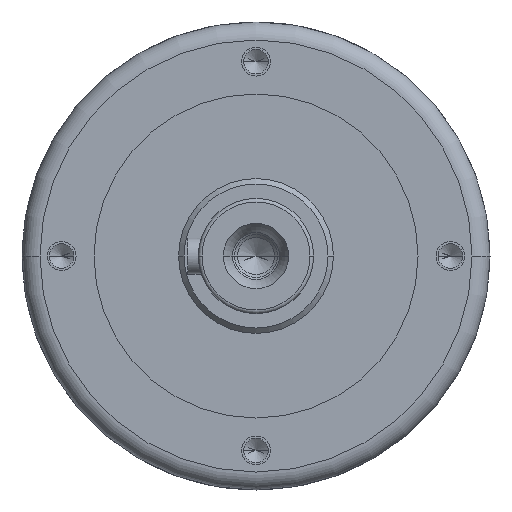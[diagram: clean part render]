
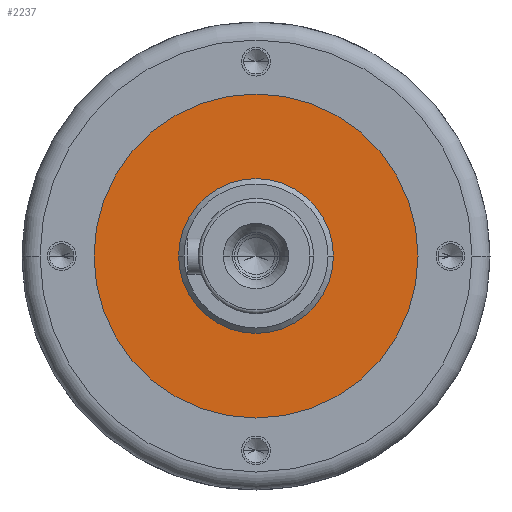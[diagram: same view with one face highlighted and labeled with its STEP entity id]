
A CAD part, left-side view. The second image highlights one B-rep face of the part: STEP entity #2237.
In plain terms, the highlighted planar face has unit normal (-1, 0, 0).
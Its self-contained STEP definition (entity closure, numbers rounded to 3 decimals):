
#1523=CARTESIAN_POINT('',(-17.5,0.,0.));
#1524=DIRECTION('',(-1.,0.,0.));
#1525=DIRECTION('',(0.,1.,0.));
#1526=AXIS2_PLACEMENT_3D('',#1523,#1524,#1525);
#1528=CARTESIAN_POINT('',(-17.5,0.,0.));
#1529=DIRECTION('',(1.,0.,0.));
#1530=DIRECTION('',(0.,1.,0.));
#1531=AXIS2_PLACEMENT_3D('',#1528,#1529,#1530);
#1533=CARTESIAN_POINT('',(-17.5,0.,0.));
#1534=DIRECTION('',(1.,0.,0.));
#1535=DIRECTION('',(0.,1.,0.));
#1536=AXIS2_PLACEMENT_3D('',#1533,#1534,#1535);
#1546=CARTESIAN_POINT('',(-17.5,0.,0.));
#1547=DIRECTION('',(-1.,0.,0.));
#1548=DIRECTION('',(0.,1.,0.));
#1549=AXIS2_PLACEMENT_3D('',#1546,#1547,#1548);
#1874=CARTESIAN_POINT('',(-17.5,45.,0.));
#1876=VERTEX_POINT('',#1874);
#1877=CARTESIAN_POINT('',(-17.5,21.5,0.));
#1879=VERTEX_POINT('',#1877);
#1882=CARTESIAN_POINT('',(-17.5,-45.,0.));
#1884=VERTEX_POINT('',#1882);
#1885=CARTESIAN_POINT('',(-17.5,-21.5,0.));
#1887=VERTEX_POINT('',#1885);
#2222=CARTESIAN_POINT('',(-17.5,0.,0.));
#2223=DIRECTION('',(1.,0.,0.));
#2224=DIRECTION('',(0.,-1.,0.));
#2225=AXIS2_PLACEMENT_3D('',#2222,#2223,#2224);
#2226=PLANE('',#2225);
#2227=ORIENTED_EDGE('',*,*,#2215,.F.);
#2228=ORIENTED_EDGE('',*,*,#2204,.T.);
#2229=EDGE_LOOP('',(#2227,#2228));
#2230=FACE_OUTER_BOUND('',#2229,.F.);
#2232=ORIENTED_EDGE('',*,*,#2231,.F.);
#2234=ORIENTED_EDGE('',*,*,#2233,.T.);
#2235=EDGE_LOOP('',(#2232,#2234));
#2236=FACE_BOUND('',#2235,.F.);
#2237=ADVANCED_FACE('',(#2230,#2236),#2226,.F.);
#1527=CIRCLE('',#1526,45.);
#1532=CIRCLE('',#1531,45.);
#1537=CIRCLE('',#1536,21.5);
#1550=CIRCLE('',#1549,21.5);
#2204=EDGE_CURVE('',#1876,#1884,#1532,.T.);
#2215=EDGE_CURVE('',#1876,#1884,#1527,.T.);
#2231=EDGE_CURVE('',#1879,#1887,#1537,.T.);
#2233=EDGE_CURVE('',#1879,#1887,#1550,.T.);
